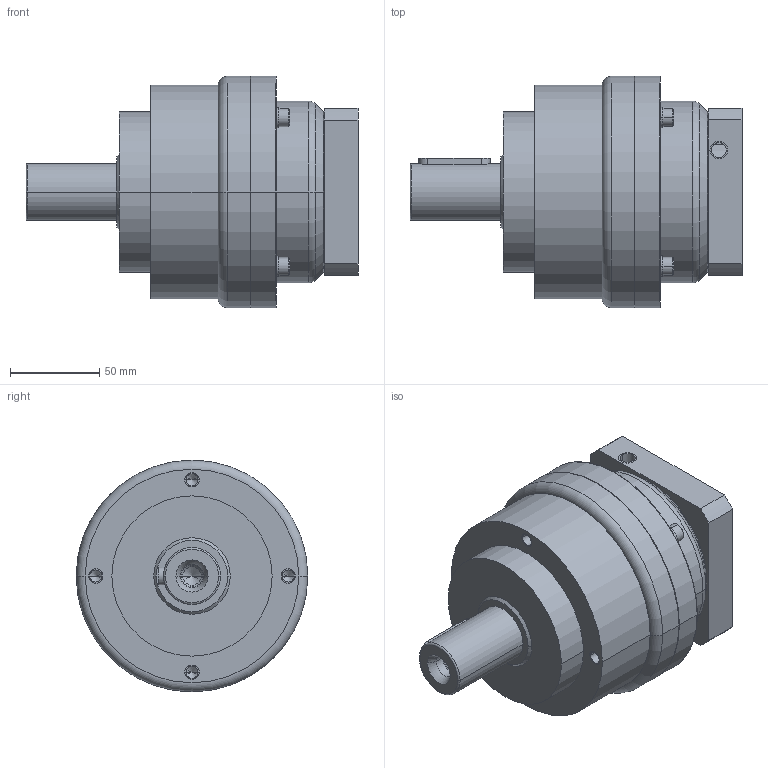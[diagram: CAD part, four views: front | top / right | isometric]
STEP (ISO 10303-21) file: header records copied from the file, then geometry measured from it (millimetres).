
FILE_DESCRIPTION((''),'2;1');
FILE_NAME('AE1201-P0403402303_ASM','2024-01-25T',('Administrator'),(''),'PRO/ENGINEER BY PARAMETRIC TECHNOLOGY CORPORATION, 2015240','PRO/ENGINEER BY PARAMETRIC TECHNOLOGY CORPORATION, 2015240','');
FILE_SCHEMA(('CONFIG_CONTROL_DESIGN'));
Length unit declared in the file: millimetre
Products named in the file (6): P1302400001_D; AE120; AB-INPUTSHAFT-4; AE1201_ASM; P0403402303-0019; AE1201-P0403402303_ASM
Assembly tree (5 placements, depth 3):
  AE1201-P0403402303_ASM
    AE1201_ASM
      P1302400001_D
      AE120
      AB-INPUTSHAFT-4
    P0403402303-0019
Bounding box: 186.5 x 130 x 130 mm (x, y, z)
Volume: 1277206.5 mm3; surface area: 152175.6 mm2
Topology: 4 solids, 14 shells, 219 faces, 530 edges, 335 vertices
Faces by surface type: cylinder 119, plane 52, cone 36, torus 12
Entity records: 6677 total; most frequent: DIRECTION 1290, CARTESIAN_POINT 1171, ORIENTED_EDGE 984, AXIS2_PLACEMENT_3D 548, EDGE_CURVE 512, VERTEX_POINT 335, CIRCLE 311, EDGE_LOOP 273
